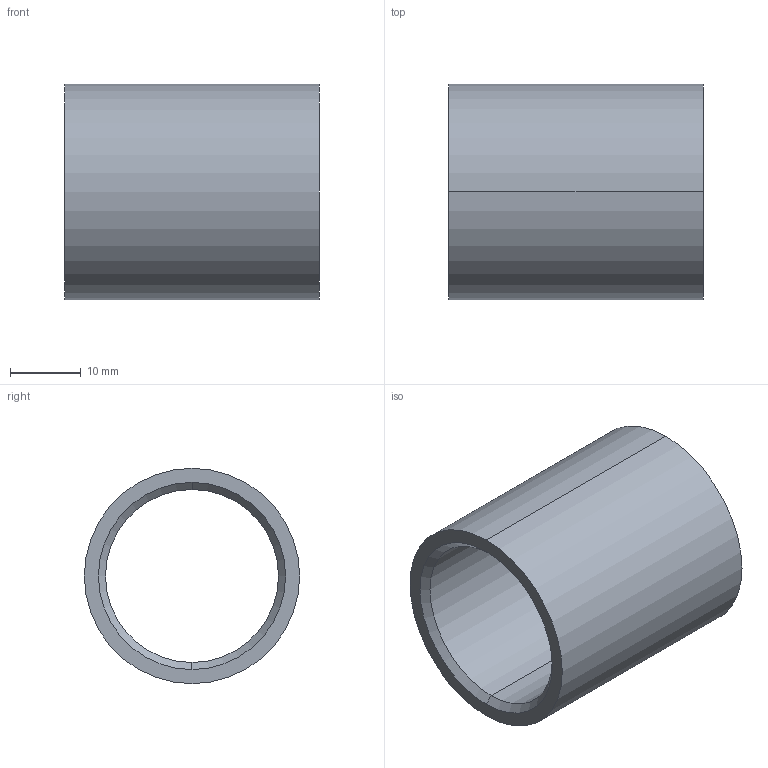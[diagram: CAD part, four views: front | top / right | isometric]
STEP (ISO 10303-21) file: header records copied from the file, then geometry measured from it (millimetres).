
FILE_DESCRIPTION (( 'STEP AP203' ), '1' );
FILE_NAME ('Wiberger-wn8625-a4-3-4tum.step', '2025-03-11T09:13:25', ( '' ), ( '' ), 'SwSTEP 2.0', 'SolidWorks 2023', '' );
FILE_SCHEMA (( 'CONFIG_CONTROL_DESIGN' ));
Length unit declared in the file: millimetre
Products named in the file (1): Wiberger-wn8625-a4-3-4tum
Bounding box: 36 x 30.5 x 30.5 mm (x, y, z)
Volume: 9251.5 mm3; surface area: 6651.1 mm2
Topology: 1 solids, 1 shells, 10 faces, 20 edges, 12 vertices
Faces by surface type: cone 4, cylinder 4, plane 2
Entity records: 345 total; most frequent: DIRECTION 54, CARTESIAN_POINT 43, ORIENTED_EDGE 40, AXIS2_PLACEMENT_3D 23, EDGE_CURVE 20, EDGE_LOOP 12, VERTEX_POINT 12, CIRCLE 12
